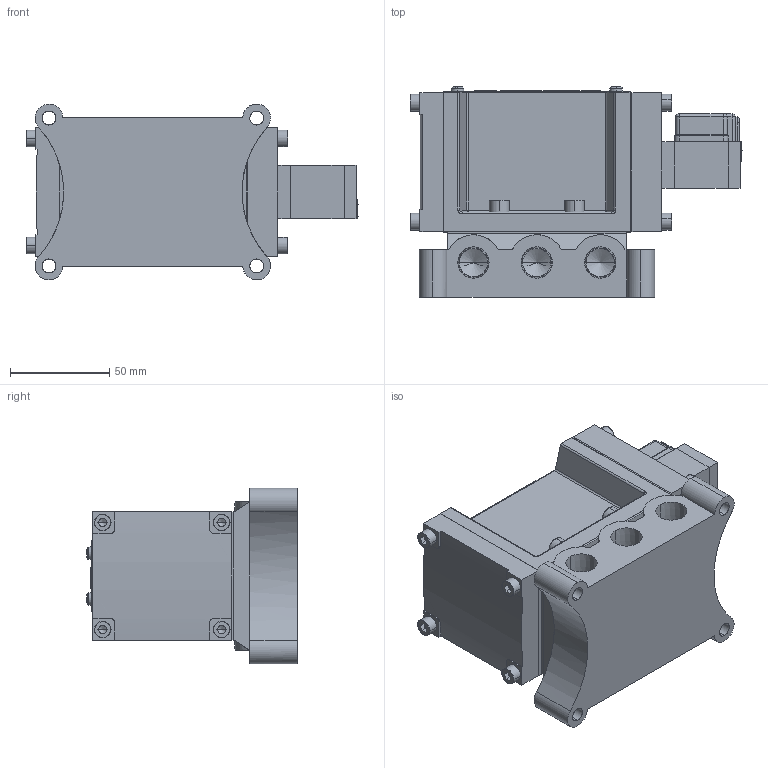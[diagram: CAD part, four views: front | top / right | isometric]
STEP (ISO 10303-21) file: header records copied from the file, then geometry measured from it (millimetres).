
FILE_DESCRIPTION (( 'STEP AP203' ), '1' );
FILE_NAME ('PMS2410#-03-#G#.STEP', '2016-03-09T08:37:18', ( 'Sam Lin' ), ( '' ), 'SwSTEP 2.0', 'SolidWorks 2013', '' );
FILE_SCHEMA (( 'CONFIG_CONTROL_DESIGN' ));
Length unit declared in the file: metre
Products named in the file (18): PM06-C1_1; PMS2410-8; PM06-C3-M4_1; PMS2410-2; PMS2410-3; PMS2410-4; ISO 4762 M6 x 20; PM06-C4_1; PMS2410#-03-#G#; PM06-C6-M3_1; PM06-C5_1; ISO 4762 M5 x 20; PM06-G1; PMS2410-5; PM10-MARK-2410; PMS2410-6; PMS2410-7; PMS2410-1
Assembly tree (30 placements, depth 2):
  PMS2410#-03-#G#
    PMS2410-1
    PMS2410-2
    PMS2410-3
    PMS2410-4
    PMS2410-5
    ISO 4762 M5 x 20  x8
    PM06-C3-M4_1  x3
    ISO 4762 M6 x 20  x4
    PM06-C1_1
    PM06-C4_1
    PM06-C6-M3_1  x2
    PM06-C5_1
    PM06-G1
    PM10-MARK-2410
    PMS2410-6
    PMS2410-7
    PMS2410-8
Bounding box: 167.5 x 106.35 x 88.61 mm (x, y, z)
Volume: 693880.8 mm3; surface area: 148851.1 mm2
Topology: 36 solids, 36 shells, 922 faces, 2206 edges, 1360 vertices
Faces by surface type: plane 472, cylinder 227, cone 113, bspline 106, torus 4
Entity records: 21657 total; most frequent: CARTESIAN_POINT 6687, ORIENTED_EDGE 2632, DIRECTION 2589, EDGE_CURVE 1316, AXIS2_PLACEMENT_3D 931, VERTEX_POINT 843, LINE 727, VECTOR 727
